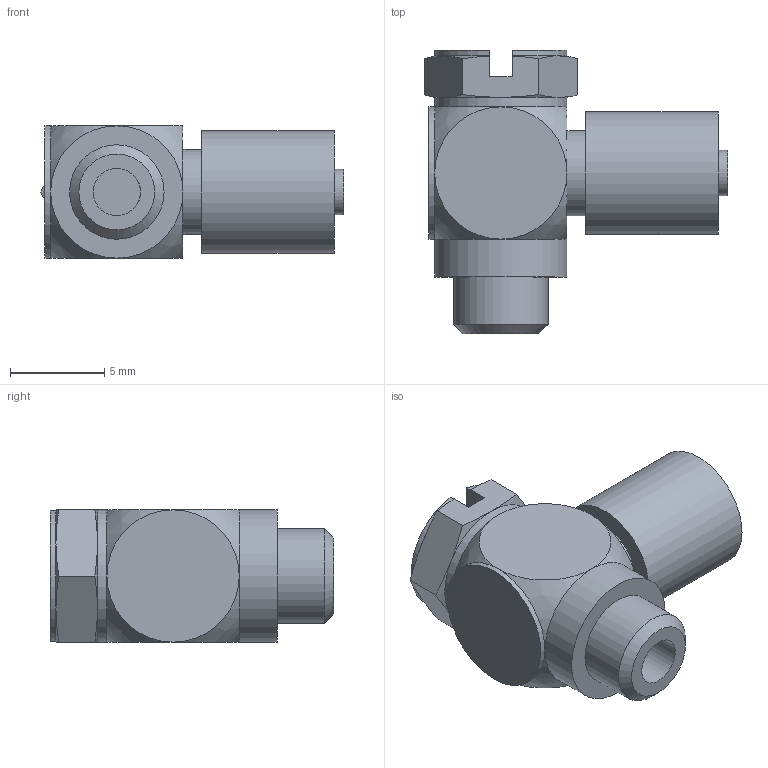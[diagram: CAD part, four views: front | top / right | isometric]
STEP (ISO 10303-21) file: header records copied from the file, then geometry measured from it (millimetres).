
FILE_DESCRIPTION( ( 'STEP AP214' ), '1' );
FILE_NAME( 'e:/temp/worker_149/temp/exporttempdir_2848_350_OJUOn/format_0/MS-5HLH-4.stp', '2021-09-08T01:44:59', ( 'License CC BY-ND 4.0' ), ( 'CADENAS' ), ' ', 'PARTsolutions', ' ' );
FILE_SCHEMA( ( 'AUTOMOTIVE_DESIGN { 1 0 10303 214 1 1 1 1 }' ) );
Length unit declared in the file: millimetre
Products named in the file (1): _MS-5HLH-4
Bounding box: 16.04 x 15 x 7 mm (x, y, z)
Volume: 765.4 mm3; surface area: 779.8 mm2
Topology: 1 solids, 1 shells, 53 faces, 114 edges, 67 vertices
Faces by surface type: plane 21, cone 13, cylinder 11, sphere 8
Full cylindrical faces by diameter (mm): 1.8 x1, 2.4 x1, 2.5 x1, 4.5 x1, 5 x1, 6.5 x1, 7 x3
Entity records: 1850 total; most frequent: CARTESIAN_POINT 336, DIRECTION 232, ORIENTED_EDGE 202, AXIS2_PLACEMENT_3D 106, EDGE_CURVE 101, EDGE_LOOP 69, VERTEX_POINT 64, FACE_OUTER_BOUND 62
